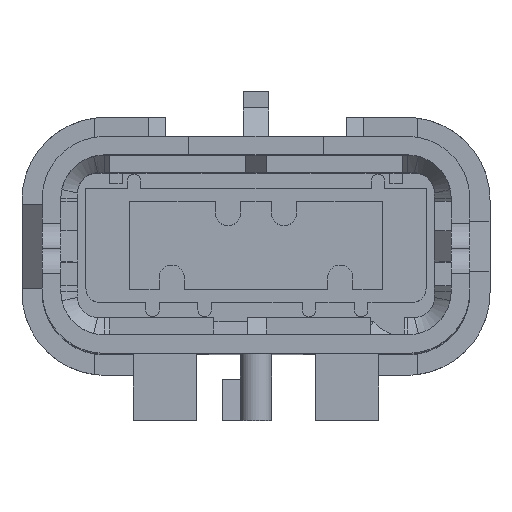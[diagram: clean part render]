
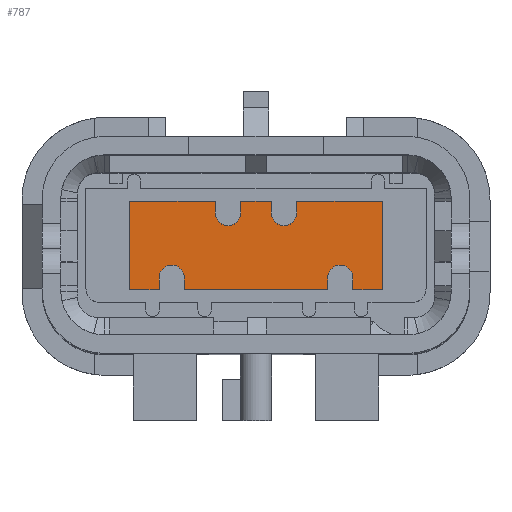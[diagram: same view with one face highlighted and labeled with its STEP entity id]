
A CAD part, top view. The second image highlights one B-rep face of the part: STEP entity #787.
In plain terms, the highlighted planar face has unit normal (0, 0, 1).
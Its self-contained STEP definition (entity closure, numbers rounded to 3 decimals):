
#395=CIRCLE('',#9366,0.75);
#397=CIRCLE('',#9374,0.75);
#399=CIRCLE('',#9380,0.75);
#401=CIRCLE('',#9388,0.75);
#787=ADVANCED_FACE('',(#1571),#1167,.T.);
#1167=PLANE('',#9424);
#1571=FACE_OUTER_BOUND('',#2028,.T.);
#2028=EDGE_LOOP('',(#4007,#4008,#4009,#4010,#4011,#4012,#4013,#4014,#4015,
#4016,#4017,#4018,#4019,#4020,#4021,#4022,#4023,#4024,#4025,#4026));
#4007=ORIENTED_EDGE('',*,*,#6468,.T.);
#4008=ORIENTED_EDGE('',*,*,#6470,.T.);
#4009=ORIENTED_EDGE('',*,*,#6475,.T.);
#4010=ORIENTED_EDGE('',*,*,#6478,.F.);
#4011=ORIENTED_EDGE('',*,*,#6481,.F.);
#4012=ORIENTED_EDGE('',*,*,#6484,.T.);
#4013=ORIENTED_EDGE('',*,*,#6487,.T.);
#4014=ORIENTED_EDGE('',*,*,#6490,.F.);
#4015=ORIENTED_EDGE('',*,*,#6493,.F.);
#4016=ORIENTED_EDGE('',*,*,#6496,.T.);
#4017=ORIENTED_EDGE('',*,*,#6497,.T.);
#4018=ORIENTED_EDGE('',*,*,#6500,.F.);
#4019=ORIENTED_EDGE('',*,*,#6505,.T.);
#4020=ORIENTED_EDGE('',*,*,#6508,.F.);
#4021=ORIENTED_EDGE('',*,*,#6510,.F.);
#4022=ORIENTED_EDGE('',*,*,#6453,.F.);
#4023=ORIENTED_EDGE('',*,*,#6457,.T.);
#4024=ORIENTED_EDGE('',*,*,#6460,.F.);
#4025=ORIENTED_EDGE('',*,*,#6463,.F.);
#4026=ORIENTED_EDGE('',*,*,#6466,.F.);
#5336=VERTEX_POINT('',#14393);
#5337=VERTEX_POINT('',#14395);
#5339=VERTEX_POINT('',#14401);
#5341=VERTEX_POINT('',#14407);
#5343=VERTEX_POINT('',#14413);
#5345=VERTEX_POINT('',#14419);
#5346=VERTEX_POINT('',#14423);
#5348=VERTEX_POINT('',#14429);
#5351=VERTEX_POINT('',#14437);
#5353=VERTEX_POINT('',#14443);
#5355=VERTEX_POINT('',#14449);
#5357=VERTEX_POINT('',#14455);
#5359=VERTEX_POINT('',#14461);
#5361=VERTEX_POINT('',#14467);
#5363=VERTEX_POINT('',#14473);
#5365=VERTEX_POINT('',#14479);
#5366=VERTEX_POINT('',#14483);
#5368=VERTEX_POINT('',#14489);
#5371=VERTEX_POINT('',#14497);
#5373=VERTEX_POINT('',#14503);
#6453=EDGE_CURVE('',#5336,#5337,#7601,.T.);
#6457=EDGE_CURVE('',#5336,#5339,#7605,.T.);
#6460=EDGE_CURVE('',#5341,#5339,#395,.T.);
#6463=EDGE_CURVE('',#5343,#5341,#7609,.T.);
#6466=EDGE_CURVE('',#5345,#5343,#7612,.T.);
#6468=EDGE_CURVE('',#5345,#5346,#7614,.T.);
#6470=EDGE_CURVE('',#5346,#5348,#7616,.T.);
#6475=EDGE_CURVE('',#5348,#5351,#7621,.T.);
#6478=EDGE_CURVE('',#5353,#5351,#397,.T.);
#6481=EDGE_CURVE('',#5355,#5353,#7625,.T.);
#6484=EDGE_CURVE('',#5355,#5357,#7628,.T.);
#6487=EDGE_CURVE('',#5357,#5359,#7631,.T.);
#6490=EDGE_CURVE('',#5361,#5359,#399,.T.);
#6493=EDGE_CURVE('',#5363,#5361,#7635,.T.);
#6496=EDGE_CURVE('',#5363,#5365,#7638,.T.);
#6497=EDGE_CURVE('',#5365,#5366,#7639,.T.);
#6500=EDGE_CURVE('',#5368,#5366,#7642,.T.);
#6505=EDGE_CURVE('',#5368,#5371,#7647,.T.);
#6508=EDGE_CURVE('',#5373,#5371,#401,.T.);
#6510=EDGE_CURVE('',#5337,#5373,#7650,.T.);
#7601=LINE('',#14394,#8652);
#7605=LINE('',#14402,#8656);
#7609=LINE('',#14414,#8660);
#7612=LINE('',#14420,#8663);
#7614=LINE('',#14425,#8665);
#7616=LINE('',#14428,#8667);
#7621=LINE('',#14438,#8672);
#7625=LINE('',#14450,#8676);
#7628=LINE('',#14456,#8679);
#7631=LINE('',#14462,#8682);
#7635=LINE('',#14474,#8686);
#7638=LINE('',#14480,#8689);
#7639=LINE('',#14482,#8690);
#7642=LINE('',#14488,#8693);
#7647=LINE('',#14498,#8698);
#7650=LINE('',#14507,#8701);
#8652=VECTOR('',#11121,1.);
#8656=VECTOR('',#11127,1.);
#8660=VECTOR('',#11139,1.);
#8663=VECTOR('',#11144,1.);
#8665=VECTOR('',#11148,1.);
#8667=VECTOR('',#11152,1.);
#8672=VECTOR('',#11159,1.);
#8676=VECTOR('',#11171,1.);
#8679=VECTOR('',#11176,1.);
#8682=VECTOR('',#11181,1.);
#8686=VECTOR('',#11193,1.);
#8689=VECTOR('',#11198,1.);
#8690=VECTOR('',#11201,1.);
#8693=VECTOR('',#11206,1.);
#8698=VECTOR('',#11213,1.);
#8701=VECTOR('',#11224,1.);
#9366=AXIS2_PLACEMENT_3D('',#14408,#11133,#11134);
#9374=AXIS2_PLACEMENT_3D('',#14444,#11165,#11166);
#9380=AXIS2_PLACEMENT_3D('',#14468,#11187,#11188);
#9388=AXIS2_PLACEMENT_3D('',#14504,#11219,#11220);
#9424=AXIS2_PLACEMENT_3D('',#14586,#11323,#11324);
#11121=DIRECTION('',(-1.,0.,0.));
#11127=DIRECTION('',(0.,1.,0.));
#11133=DIRECTION('',(0.,0.,1.));
#11134=DIRECTION('',(1.,0.,0.));
#11139=DIRECTION('',(0.,1.,0.));
#11144=DIRECTION('',(-1.,0.,0.));
#11148=DIRECTION('',(0.,1.,0.));
#11152=DIRECTION('',(-1.,0.,0.));
#11159=DIRECTION('',(0.,-1.,0.));
#11165=DIRECTION('',(0.,0.,1.));
#11166=DIRECTION('',(-1.,0.,0.));
#11171=DIRECTION('',(0.,-1.,0.));
#11176=DIRECTION('',(-1.,0.,0.));
#11181=DIRECTION('',(0.,-1.,0.));
#11187=DIRECTION('',(0.,0.,1.));
#11188=DIRECTION('',(-1.,0.,0.));
#11193=DIRECTION('',(0.,-1.,0.));
#11198=DIRECTION('',(-1.,0.,0.));
#11201=DIRECTION('',(0.,-1.,0.));
#11206=DIRECTION('',(-1.,0.,0.));
#11213=DIRECTION('',(0.,1.,0.));
#11219=DIRECTION('',(0.,0.,1.));
#11220=DIRECTION('',(1.,0.,0.));
#11224=DIRECTION('',(0.,1.,0.));
#11323=DIRECTION('',(0.,0.,1.));
#11324=DIRECTION('',(1.,0.,0.));
#14393=CARTESIAN_POINT('',(4.25,-2.625,1.1));
#14394=CARTESIAN_POINT('',(4.25,-2.625,1.1));
#14395=CARTESIAN_POINT('',(-4.25,-2.625,1.1));
#14401=CARTESIAN_POINT('',(4.25,-1.925,1.1));
#14402=CARTESIAN_POINT('',(4.25,-2.625,1.1));
#14407=CARTESIAN_POINT('',(5.75,-1.925,1.1));
#14408=CARTESIAN_POINT('',(5.,-1.925,1.1));
#14413=CARTESIAN_POINT('',(5.75,-2.625,1.1));
#14414=CARTESIAN_POINT('',(5.75,-2.625,1.1));
#14419=CARTESIAN_POINT('',(7.51,-2.625,1.1));
#14420=CARTESIAN_POINT('',(7.51,-2.625,1.1));
#14423=CARTESIAN_POINT('',(7.51,2.625,1.1));
#14425=CARTESIAN_POINT('',(7.51,-2.625,1.1));
#14428=CARTESIAN_POINT('',(7.51,2.625,1.1));
#14429=CARTESIAN_POINT('',(2.415,2.625,1.1));
#14437=CARTESIAN_POINT('',(2.415,1.925,1.1));
#14438=CARTESIAN_POINT('',(2.415,2.625,1.1));
#14443=CARTESIAN_POINT('',(0.915,1.925,1.1));
#14444=CARTESIAN_POINT('',(1.665,1.925,1.1));
#14449=CARTESIAN_POINT('',(0.915,2.625,1.1));
#14450=CARTESIAN_POINT('',(0.915,2.625,1.1));
#14455=CARTESIAN_POINT('',(-0.915,2.625,1.1));
#14456=CARTESIAN_POINT('',(0.915,2.625,1.1));
#14461=CARTESIAN_POINT('',(-0.915,1.925,1.1));
#14462=CARTESIAN_POINT('',(-0.915,2.625,1.1));
#14467=CARTESIAN_POINT('',(-2.415,1.925,1.1));
#14468=CARTESIAN_POINT('',(-1.665,1.925,1.1));
#14473=CARTESIAN_POINT('',(-2.415,2.625,1.1));
#14474=CARTESIAN_POINT('',(-2.415,2.625,1.1));
#14479=CARTESIAN_POINT('',(-7.51,2.625,1.1));
#14480=CARTESIAN_POINT('',(-2.415,2.625,1.1));
#14482=CARTESIAN_POINT('',(-7.51,-0.5,1.1));
#14483=CARTESIAN_POINT('',(-7.51,-2.625,1.1));
#14488=CARTESIAN_POINT('',(-5.75,-2.625,1.1));
#14489=CARTESIAN_POINT('',(-5.75,-2.625,1.1));
#14497=CARTESIAN_POINT('',(-5.75,-1.925,1.1));
#14498=CARTESIAN_POINT('',(-5.75,-2.625,1.1));
#14503=CARTESIAN_POINT('',(-4.25,-1.925,1.1));
#14504=CARTESIAN_POINT('',(-5.,-1.925,1.1));
#14507=CARTESIAN_POINT('',(-4.25,-2.625,1.1));
#14586=CARTESIAN_POINT('',(-9.012,-3.15,1.1));
